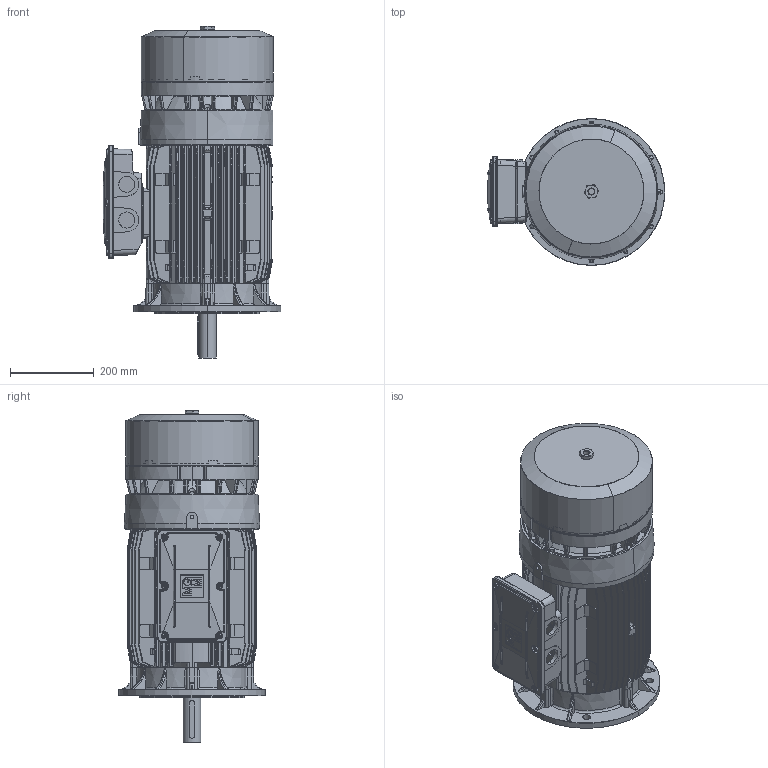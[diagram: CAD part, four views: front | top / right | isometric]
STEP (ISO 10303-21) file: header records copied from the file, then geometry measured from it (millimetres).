
FILE_DESCRIPTION (( 'STEP AP214' ), '1' );
FILE_NAME ('M02LB0011.STEP', '2018-10-29T10:15:46', ( '' ), ( '' ), 'SwSTEP 2.0', 'SolidWorks 2018', '' );
FILE_SCHEMA (( 'AUTOMOTIVE_DESIGN' ));
Length unit declared in the file: millimetre
Products named in the file (16): M02LB0011; Scatola Morsettiera Doppia BA 160 - 180 - 200 - Completa; Vite a Testa Esagona 20 MB gr. 132-200 - DGAS0094; Guarnizione Basetta BA 160-180 - 200 - D6BB0000; Vite Testa Bombata M6x20; Guarnizione Coperchio Sc. Mor. BA 160-180-200 - D6BA0100; Coperchio Scatola Morsettiera Doppia BA 160 - 180 - 200 - D6A60099; Scatola morsettiera 160; O-ring Freno BA 160; Convogliatore con pista di attrito BA 160 P2 -  D6A80199; Chiavetta 160; Scudo a flangia B5 Fi 350 BA 160 - D6AA0094; Scudo Lato Freno BA 160 P1 - D6A90399; Cuffia serie BA 160; Albero BA 160 L; Carcassa 160 L B5
Assembly tree (20 placements, depth 3):
  M02LB0011
    Carcassa 160 L B5
    Albero BA 160 L
    Cuffia serie BA 160
    Scudo Lato Freno BA 160 P1 - D6A90399
    Scudo a flangia B5 Fi 350 BA 160 - D6AA0094
    Chiavetta 160
    Convogliatore con pista di attrito BA 160 P2 -  D6A80199
    O-ring Freno BA 160
    Scatola Morsettiera Doppia BA 160 - 180 - 200 - Completa
      Scatola morsettiera 160
      Coperchio Scatola Morsettiera Doppia BA 160 - 180 - 200 - D6A60099
      Guarnizione Coperchio Sc. Mor. BA 160-180-200 - D6BA0100
      Vite Testa Bombata M6x20  x6
      Guarnizione Basetta BA 160-180 - 200 - D6BB0000
    Vite a Testa Esagona 20 MB gr. 132-200 - DGAS0094
Bounding box: 423.49 x 350 x 790.5 mm (x, y, z)
Volume: 11067958.5 mm3; surface area: 3350858 mm2
Topology: 19 solids, 19 shells, 3920 faces, 10780 edges, 6746 vertices
Faces by surface type: cylinder 1279, plane 1053, bspline 697, cone 451, torus 398, sphere 42
Entity records: 212837 total; most frequent: CARTESIAN_POINT 126456, ORIENTED_EDGE 19372, DIRECTION 15344, EDGE_CURVE 9686, VERTEX_POINT 6116, AXIS2_PLACEMENT_3D 6038, EDGE_LOOP 3832, ADVANCED_FACE 3595
